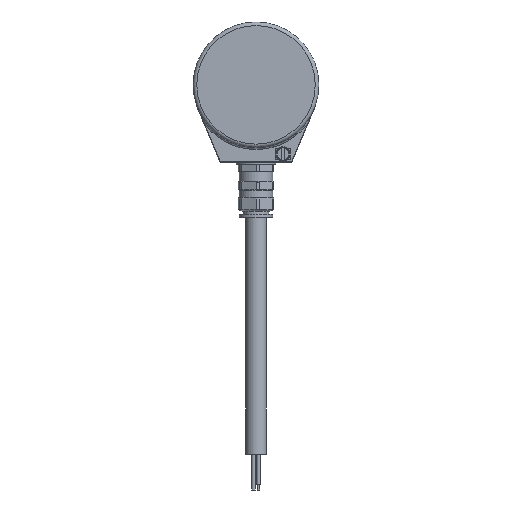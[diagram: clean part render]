
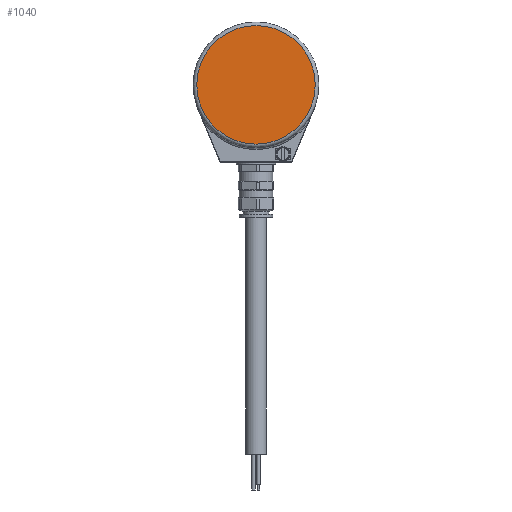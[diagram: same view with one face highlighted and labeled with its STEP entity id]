
A CAD part, left-side view. The second image highlights one B-rep face of the part: STEP entity #1040.
In plain terms, the highlighted planar face has unit normal (-1, 0, 0).
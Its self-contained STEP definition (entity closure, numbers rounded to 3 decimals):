
#128 = PLANE ( 'NONE',  #1766 ) ;
#131 = DIRECTION ( 'NONE',  ( 1., 0., 0. ) ) ;
#136 = EDGE_LOOP ( 'NONE', ( #801 ) ) ;
#166 = DIRECTION ( 'NONE',  ( 0., 1., 0. ) ) ;
#801 = ORIENTED_EDGE ( 'NONE', *, *, #6015, .F. ) ;
#1040 = ADVANCED_FACE ( 'NONE', ( #8844 ), #128, .F. ) ;
#1281 = VERTEX_POINT ( 'NONE', #5723 ) ;
#1766 = AXIS2_PLACEMENT_3D ( 'NONE', #10873, #5545, #166 ) ;
#5507 = CARTESIAN_POINT ( 'NONE',  ( -70.2, 0., 0. ) ) ;
#5545 = DIRECTION ( 'NONE',  ( 1., 0., 0. ) ) ;
#5723 = CARTESIAN_POINT ( 'NONE',  ( -70.2, 33., 0. ) ) ;
#6015 = EDGE_CURVE ( 'NONE', #1281, #1281, #9443, .T. ) ;
#6410 = DIRECTION ( 'NONE',  ( 0., 1., 0. ) ) ;
#8844 = FACE_OUTER_BOUND ( 'NONE', #136, .T. ) ;
#9443 = CIRCLE ( 'NONE', #10178, 33. ) ;
#10178 = AXIS2_PLACEMENT_3D ( 'NONE', #5507, #131, #6410 ) ;
#10873 = CARTESIAN_POINT ( 'NONE',  ( -70.2, 0., 33. ) ) ;
